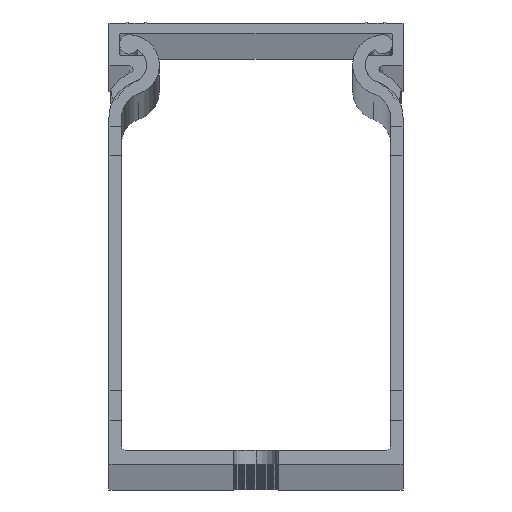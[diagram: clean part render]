
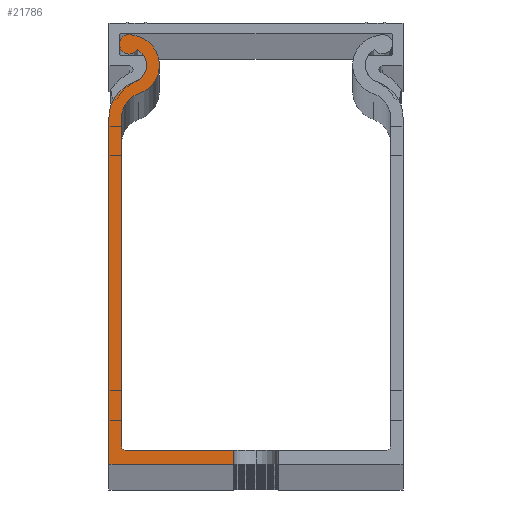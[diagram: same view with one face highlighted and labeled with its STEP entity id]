
A CAD part, top view. The second image highlights one B-rep face of the part: STEP entity #21786.
In plain terms, the highlighted planar face has unit normal (0, 0, 1).
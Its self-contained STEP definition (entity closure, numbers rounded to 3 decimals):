
#463 = CIRCLE ( 'NONE', #20164, 2.4 ) ;
#544 = ORIENTED_EDGE ( 'NONE', *, *, #14640, .T. ) ;
#920 = VERTEX_POINT ( 'NONE', #18595 ) ;
#1084 = CARTESIAN_POINT ( 'NONE',  ( 2549.807, 1294.213, 2000. ) ) ;
#3501 = CIRCLE ( 'NONE', #22356, 0.5 ) ;
#3504 = PLANE ( 'NONE',  #45753 ) ;
#3659 = CARTESIAN_POINT ( 'NONE',  ( 2565.407, 1237.056, 2000. ) ) ;
#4016 = CARTESIAN_POINT ( 'NONE',  ( 2551.157, 1294.213, 2000. ) ) ;
#4951 = AXIS2_PLACEMENT_3D ( 'NONE', #44335, #19337, #7294 ) ;
#5855 = CARTESIAN_POINT ( 'NONE',  ( 2550.607, 1238.956, 2000. ) ) ;
#6913 = EDGE_CURVE ( 'NONE', #920, #12075, #30460, .T. ) ;
#6942 = VECTOR ( 'NONE', #23983, 1000. ) ;
#7145 = EDGE_CURVE ( 'NONE', #12075, #37486, #22660, .T. ) ;
#7294 = DIRECTION ( 'NONE',  ( 1., 0., 0. ) ) ;
#7383 = CARTESIAN_POINT ( 'NONE',  ( 2568.407, 1237.056, 2000. ) ) ;
#7637 = DIRECTION ( 'NONE',  ( 1., 0., 0. ) ) ;
#8080 = VERTEX_POINT ( 'NONE', #33223 ) ;
#8382 = CARTESIAN_POINT ( 'NONE',  ( 2565.407, 1238.956, 2000. ) ) ;
#8560 = VERTEX_POINT ( 'NONE', #3659 ) ;
#8865 = DIRECTION ( 'NONE',  ( 1., 0., 0. ) ) ;
#9478 = EDGE_CURVE ( 'NONE', #25270, #920, #42446, .T. ) ;
#9805 = ORIENTED_EDGE ( 'NONE', *, *, #16717, .T. ) ;
#10170 = VERTEX_POINT ( 'NONE', #1084 ) ;
#11064 = VECTOR ( 'NONE', #53106, 1000. ) ;
#11242 = CARTESIAN_POINT ( 'NONE',  ( 2553.507, 1284.233, 2000. ) ) ;
#11731 = EDGE_CURVE ( 'NONE', #35936, #26089, #16983, .T. ) ;
#12075 = VERTEX_POINT ( 'NONE', #45552 ) ;
#12478 = DIRECTION ( 'NONE',  ( 0., 0., -1. ) ) ;
#12543 = EDGE_CURVE ( 'NONE', #8080, #8560, #14933, .T. ) ;
#12638 = CARTESIAN_POINT ( 'NONE',  ( 2553.507, 1284.233, 2000. ) ) ;
#13978 = CARTESIAN_POINT ( 'NONE',  ( 2550.107, 1284.202, 2000. ) ) ;
#14640 = EDGE_CURVE ( 'NONE', #26089, #8080, #30127, .T. ) ;
#14933 = LINE ( 'NONE', #7383, #11064 ) ;
#15322 = DIRECTION ( 'NONE',  ( 0., -1., 0. ) ) ;
#16415 = DIRECTION ( 'NONE',  ( 1., 0., 0. ) ) ;
#16627 = CARTESIAN_POINT ( 'NONE',  ( 2550.107, 1239.456, 2000. ) ) ;
#16667 = CARTESIAN_POINT ( 'NONE',  ( 2553.507, 1284.233, 2000. ) ) ;
#16717 = EDGE_CURVE ( 'NONE', #50634, #35936, #21455, .T. ) ;
#16983 = CIRCLE ( 'NONE', #49868, 5.1 ) ;
#17195 = ORIENTED_EDGE ( 'NONE', *, *, #27581, .T. ) ;
#17319 = DIRECTION ( 'NONE',  ( 0., 0., 1. ) ) ;
#17631 = CARTESIAN_POINT ( 'NONE',  ( 2548.407, 1284.196, 2000. ) ) ;
#18260 = ORIENTED_EDGE ( 'NONE', *, *, #12543, .T. ) ;
#18542 = VERTEX_POINT ( 'NONE', #5855 ) ;
#18595 = CARTESIAN_POINT ( 'NONE',  ( 2550.107, 1284.233, 2000. ) ) ;
#19337 = DIRECTION ( 'NONE',  ( 0., 0., 1. ) ) ;
#19999 = ORIENTED_EDGE ( 'NONE', *, *, #9478, .T. ) ;
#20164 = AXIS2_PLACEMENT_3D ( 'NONE', #25404, #33296, #16415 ) ;
#20501 = EDGE_LOOP ( 'NONE', ( #42694, #29311, #41904, #48914, #19999, #38788, #27936, #32084, #33404, #17195, #9805, #52748, #544, #18260 ) ) ;
#20515 = AXIS2_PLACEMENT_3D ( 'NONE', #12638, #12478, #8865 ) ;
#20645 = CARTESIAN_POINT ( 'NONE',  ( 2568.407, 1238.956, 2000. ) ) ;
#20992 = DIRECTION ( 'NONE',  ( 1., 0., 0. ) ) ;
#21091 = AXIS2_PLACEMENT_3D ( 'NONE', #46761, #22126, #50945 ) ;
#21371 = DIRECTION ( 'NONE',  ( 0., 0., 1. ) ) ;
#21412 = VERTEX_POINT ( 'NONE', #8382 ) ;
#21455 = CIRCLE ( 'NONE', #21091, 5.1 ) ;
#21786 = ADVANCED_FACE ( 'NONE', ( #53275 ), #3504, .T. ) ;
#22126 = DIRECTION ( 'NONE',  ( 0., 0., 1. ) ) ;
#22356 = AXIS2_PLACEMENT_3D ( 'NONE', #33783, #37373, #20992 ) ;
#22660 = CIRCLE ( 'NONE', #37051, 4.1 ) ;
#23983 = DIRECTION ( 'NONE',  ( 0., -1., 0. ) ) ;
#25270 = VERTEX_POINT ( 'NONE', #35622 ) ;
#25404 = CARTESIAN_POINT ( 'NONE',  ( 2551.159, 1291.356, 2000. ) ) ;
#26089 = VERTEX_POINT ( 'NONE', #17631 ) ;
#26752 = EDGE_CURVE ( 'NONE', #10170, #38281, #42405, .T. ) ;
#26886 = DIRECTION ( 'NONE',  ( 1., 0., 0. ) ) ;
#27485 = EDGE_CURVE ( 'NONE', #21412, #8560, #28868, .T. ) ;
#27581 = EDGE_CURVE ( 'NONE', #38281, #50634, #463, .T. ) ;
#27936 = ORIENTED_EDGE ( 'NONE', *, *, #7145, .T. ) ;
#28153 = LINE ( 'NONE', #13978, #30032 ) ;
#28781 = DIRECTION ( 'NONE',  ( -1., 0., 0. ) ) ;
#28868 = LINE ( 'NONE', #48616, #6942 ) ;
#29311 = ORIENTED_EDGE ( 'NONE', *, *, #45018, .T. ) ;
#29503 = EDGE_CURVE ( 'NONE', #31472, #25270, #28153, .T. ) ;
#29911 = LINE ( 'NONE', #20645, #44712 ) ;
#29957 = CARTESIAN_POINT ( 'NONE',  ( 2548.407, 1284.233, 2000. ) ) ;
#30032 = VECTOR ( 'NONE', #30886, 1000. ) ;
#30127 = LINE ( 'NONE', #52953, #37180 ) ;
#30460 = CIRCLE ( 'NONE', #20515, 3.4 ) ;
#30517 = AXIS2_PLACEMENT_3D ( 'NONE', #4016, #17319, #46084 ) ;
#30886 = DIRECTION ( 'NONE',  ( 0., 1., 0. ) ) ;
#30994 = EDGE_CURVE ( 'NONE', #18542, #31472, #3501, .T. ) ;
#31272 = CARTESIAN_POINT ( 'NONE',  ( 2551.91, 1289.077, 2000. ) ) ;
#31472 = VERTEX_POINT ( 'NONE', #16627 ) ;
#32084 = ORIENTED_EDGE ( 'NONE', *, *, #45642, .T. ) ;
#32300 = DIRECTION ( 'NONE',  ( 0., 0., 1. ) ) ;
#33223 = CARTESIAN_POINT ( 'NONE',  ( 2548.407, 1237.056, 2000. ) ) ;
#33296 = DIRECTION ( 'NONE',  ( 0., 0., -1. ) ) ;
#33404 = ORIENTED_EDGE ( 'NONE', *, *, #26752, .T. ) ;
#33783 = CARTESIAN_POINT ( 'NONE',  ( 2550.607, 1239.456, 2000. ) ) ;
#34501 = CARTESIAN_POINT ( 'NONE',  ( 2553.507, 1284.233, 2000. ) ) ;
#35473 = DIRECTION ( 'NONE',  ( 0., 0., 1. ) ) ;
#35622 = CARTESIAN_POINT ( 'NONE',  ( 2550.107, 1284.202, 2000. ) ) ;
#35936 = VERTEX_POINT ( 'NONE', #29957 ) ;
#37051 = AXIS2_PLACEMENT_3D ( 'NONE', #39078, #35473, #26886 ) ;
#37180 = VECTOR ( 'NONE', #15322, 1000. ) ;
#37315 = DIRECTION ( 'NONE',  ( 1., 0., 0. ) ) ;
#37373 = DIRECTION ( 'NONE',  ( 0., 0., -1. ) ) ;
#37486 = VERTEX_POINT ( 'NONE', #51168 ) ;
#38281 = VERTEX_POINT ( 'NONE', #40056 ) ;
#38739 = AXIS2_PLACEMENT_3D ( 'NONE', #16667, #45942, #37315 ) ;
#38788 = ORIENTED_EDGE ( 'NONE', *, *, #6913, .T. ) ;
#39078 = CARTESIAN_POINT ( 'NONE',  ( 2551.159, 1291.356, 2000. ) ) ;
#40056 = CARTESIAN_POINT ( 'NONE',  ( 2552.287, 1293.474, 2000. ) ) ;
#41904 = ORIENTED_EDGE ( 'NONE', *, *, #30994, .T. ) ;
#42405 = CIRCLE ( 'NONE', #4951, 1.35 ) ;
#42446 = CIRCLE ( 'NONE', #38739, 3.4 ) ;
#42591 = DIRECTION ( 'NONE',  ( 1., 0., 0. ) ) ;
#42694 = ORIENTED_EDGE ( 'NONE', *, *, #27485, .F. ) ;
#44335 = CARTESIAN_POINT ( 'NONE',  ( 2551.157, 1294.213, 2000. ) ) ;
#44712 = VECTOR ( 'NONE', #28781, 1000. ) ;
#45018 = EDGE_CURVE ( 'NONE', #21412, #18542, #29911, .T. ) ;
#45552 = CARTESIAN_POINT ( 'NONE',  ( 2552.442, 1287.462, 2000. ) ) ;
#45642 = EDGE_CURVE ( 'NONE', #37486, #10170, #47211, .T. ) ;
#45753 = AXIS2_PLACEMENT_3D ( 'NONE', #11242, #32300, #7637 ) ;
#45942 = DIRECTION ( 'NONE',  ( 0., 0., -1. ) ) ;
#46084 = DIRECTION ( 'NONE',  ( 1., 0., 0. ) ) ;
#46761 = CARTESIAN_POINT ( 'NONE',  ( 2553.507, 1284.233, 2000. ) ) ;
#47211 = CIRCLE ( 'NONE', #30517, 1.35 ) ;
#48616 = CARTESIAN_POINT ( 'NONE',  ( 2565.407, 1284.233, 2000. ) ) ;
#48914 = ORIENTED_EDGE ( 'NONE', *, *, #29503, .T. ) ;
#49868 = AXIS2_PLACEMENT_3D ( 'NONE', #34501, #21371, #42591 ) ;
#50634 = VERTEX_POINT ( 'NONE', #31272 ) ;
#50945 = DIRECTION ( 'NONE',  ( 1., 0., 0. ) ) ;
#51168 = CARTESIAN_POINT ( 'NONE',  ( 2551.785, 1295.408, 2000. ) ) ;
#52748 = ORIENTED_EDGE ( 'NONE', *, *, #11731, .T. ) ;
#52953 = CARTESIAN_POINT ( 'NONE',  ( 2548.407, 1237.056, 2000. ) ) ;
#53106 = DIRECTION ( 'NONE',  ( 1., 0., 0. ) ) ;
#53275 = FACE_OUTER_BOUND ( 'NONE', #20501, .T. ) ;
